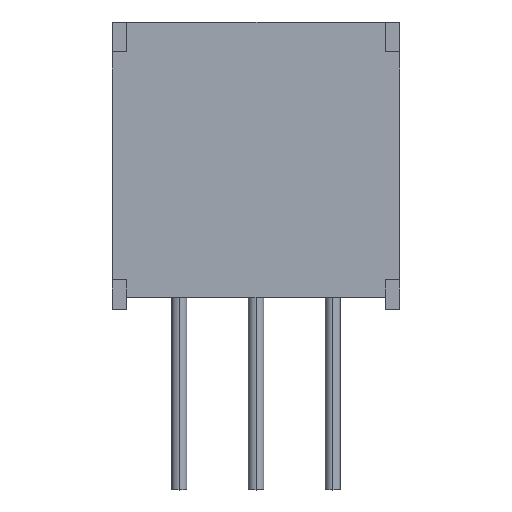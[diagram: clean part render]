
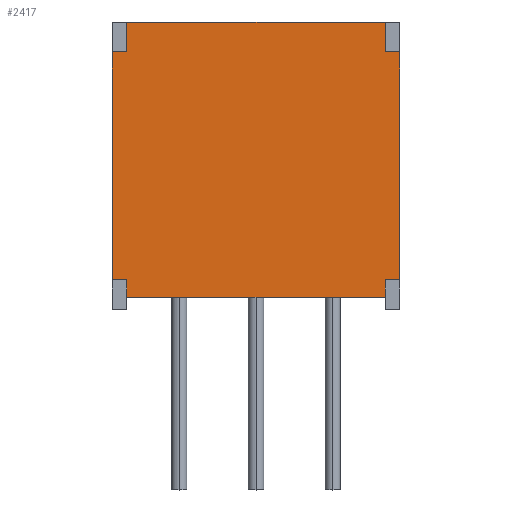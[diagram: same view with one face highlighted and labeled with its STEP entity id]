
A CAD part, top view. The second image highlights one B-rep face of the part: STEP entity #2417.
In plain terms, the highlighted planar face has unit normal (0, 0, 1).
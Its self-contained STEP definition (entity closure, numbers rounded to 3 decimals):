
#220=LINE('',#4120,#430);
#223=LINE('',#4126,#433);
#226=LINE('',#4131,#436);
#228=LINE('',#4135,#438);
#230=LINE('',#4139,#440);
#233=LINE('',#4144,#443);
#235=LINE('',#4148,#445);
#237=LINE('',#4152,#447);
#239=LINE('',#4156,#449);
#241=LINE('',#4160,#451);
#242=LINE('',#4162,#452);
#244=LINE('',#4166,#454);
#430=VECTOR('',#3386,1000.);
#433=VECTOR('',#3391,1000.);
#436=VECTOR('',#3396,1000.);
#438=VECTOR('',#3400,1000.);
#440=VECTOR('',#3404,1000.);
#443=VECTOR('',#3409,1000.);
#445=VECTOR('',#3413,1000.);
#447=VECTOR('',#3417,1000.);
#449=VECTOR('',#3421,1000.);
#451=VECTOR('',#3425,1000.);
#452=VECTOR('',#3428,1000.);
#454=VECTOR('',#3432,1000.);
#1182=ORIENTED_EDGE('',*,*,#1538,.T.);
#1183=ORIENTED_EDGE('',*,*,#1537,.F.);
#1184=ORIENTED_EDGE('',*,*,#1535,.T.);
#1185=ORIENTED_EDGE('',*,*,#1533,.T.);
#1186=ORIENTED_EDGE('',*,*,#1531,.F.);
#1187=ORIENTED_EDGE('',*,*,#1529,.F.);
#1188=ORIENTED_EDGE('',*,*,#1526,.T.);
#1189=ORIENTED_EDGE('',*,*,#1524,.F.);
#1190=ORIENTED_EDGE('',*,*,#1522,.T.);
#1191=ORIENTED_EDGE('',*,*,#1519,.T.);
#1192=ORIENTED_EDGE('',*,*,#1516,.F.);
#1193=ORIENTED_EDGE('',*,*,#1540,.T.);
#1516=EDGE_CURVE('',#1757,#1758,#220,.T.);
#1519=EDGE_CURVE('',#1759,#1758,#223,.T.);
#1522=EDGE_CURVE('',#1760,#1759,#226,.T.);
#1524=EDGE_CURVE('',#1760,#1761,#228,.T.);
#1526=EDGE_CURVE('',#1762,#1761,#230,.T.);
#1529=EDGE_CURVE('',#1762,#1763,#233,.T.);
#1531=EDGE_CURVE('',#1763,#1764,#235,.T.);
#1533=EDGE_CURVE('',#1765,#1764,#237,.T.);
#1535=EDGE_CURVE('',#1766,#1765,#239,.T.);
#1537=EDGE_CURVE('',#1766,#1767,#241,.T.);
#1538=EDGE_CURVE('',#1768,#1767,#242,.T.);
#1540=EDGE_CURVE('',#1757,#1768,#244,.T.);
#1757=VERTEX_POINT('',#4119);
#1758=VERTEX_POINT('',#4121);
#1759=VERTEX_POINT('',#4125);
#1760=VERTEX_POINT('',#4129);
#1761=VERTEX_POINT('',#4134);
#1762=VERTEX_POINT('',#4138);
#1763=VERTEX_POINT('',#4142);
#1764=VERTEX_POINT('',#4147);
#1765=VERTEX_POINT('',#4151);
#1766=VERTEX_POINT('',#4155);
#1767=VERTEX_POINT('',#4159);
#1768=VERTEX_POINT('',#4163);
#2052=EDGE_LOOP('',(#1182,#1183,#1184,#1185,#1186,#1187,#1188,#1189,#1190,
#1191,#1192,#1193));
#2205=FACE_BOUND('',#2052,.T.);
#2284=PLANE('',#2694);
#2417=ADVANCED_FACE('',(#2205),#2284,.F.);
#2694=AXIS2_PLACEMENT_3D('',#4167,#3433,#3434);
#3386=DIRECTION('',(0.,1.,0.));
#3391=DIRECTION('',(1.,0.,0.));
#3396=DIRECTION('',(0.,-1.,0.));
#3400=DIRECTION('',(1.,0.,0.));
#3404=DIRECTION('',(0.,-1.,0.));
#3409=DIRECTION('',(1.,0.,0.));
#3413=DIRECTION('',(0.,-1.,0.));
#3417=DIRECTION('',(-1.,0.,0.));
#3421=DIRECTION('',(0.,1.,0.));
#3425=DIRECTION('',(-1.,0.,0.));
#3428=DIRECTION('',(0.,1.,0.));
#3432=DIRECTION('',(1.,0.,0.));
#3433=DIRECTION('',(0.,0.,-1.));
#3434=DIRECTION('',(0.,-1.,0.));
#4119=CARTESIAN_POINT('',(-4.28,-4.42,0.));
#4120=CARTESIAN_POINT('',(-4.28,-4.42,0.));
#4121=CARTESIAN_POINT('',(-4.28,-3.835,0.));
#4125=CARTESIAN_POINT('',(-4.763,-3.835,0.));
#4126=CARTESIAN_POINT('',(-4.763,-3.835,0.));
#4129=CARTESIAN_POINT('',(-4.763,3.708,0.));
#4131=CARTESIAN_POINT('',(-4.763,3.708,0.));
#4134=CARTESIAN_POINT('',(-4.28,3.708,0.));
#4135=CARTESIAN_POINT('',(-4.763,3.708,0.));
#4138=CARTESIAN_POINT('',(-4.28,4.699,0.));
#4139=CARTESIAN_POINT('',(-4.28,4.699,0.));
#4142=CARTESIAN_POINT('',(4.28,4.699,0.));
#4144=CARTESIAN_POINT('',(-4.28,4.699,0.));
#4147=CARTESIAN_POINT('',(4.28,3.708,0.));
#4148=CARTESIAN_POINT('',(4.28,4.699,0.));
#4151=CARTESIAN_POINT('',(4.763,3.708,0.));
#4152=CARTESIAN_POINT('',(4.763,3.708,0.));
#4155=CARTESIAN_POINT('',(4.763,-3.835,0.));
#4156=CARTESIAN_POINT('',(4.763,-3.835,0.));
#4159=CARTESIAN_POINT('',(4.28,-3.835,0.));
#4160=CARTESIAN_POINT('',(4.763,-3.835,0.));
#4162=CARTESIAN_POINT('',(4.28,-4.42,0.));
#4163=CARTESIAN_POINT('',(4.28,-4.42,0.));
#4166=CARTESIAN_POINT('',(-4.28,-4.42,0.));
#4167=CARTESIAN_POINT('',(0.,0.,0.));
